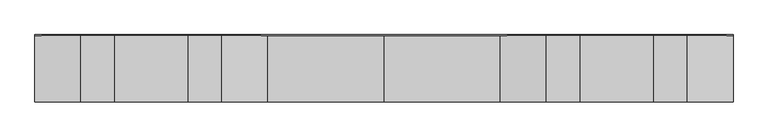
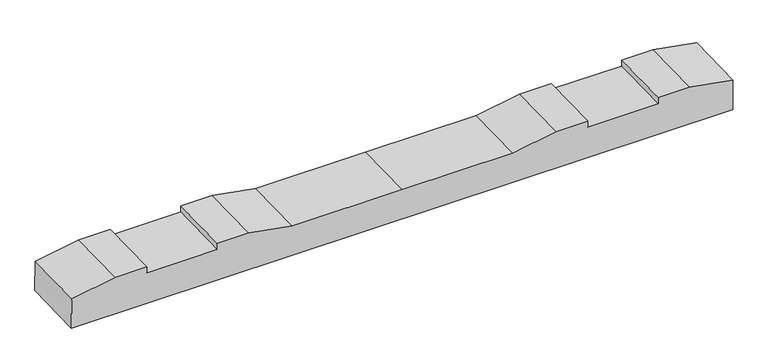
"""IFC4 building model written with IfcOpenShell, lengths in millimetres: proxy geometry, 轨枕-立面角度 : 轨枕-立面角度."""

import ifcopenshell
import ifcopenshell.guid

model = None  # the IFC model being written
_history = None  # IfcOwnerHistory: only IFC2X3 demands one
_inside = {}  # id of a spatial element -> (the spatial element, [elements in it])
_under = {}  # id of a project, library or spatial element -> (it, [spatial elements below it])
_declared = {}  # id of a project -> (the project, [libraries it declares])
_typed = {}  # id of a type object -> (the type object, [elements of that type])
_made_of = {}  # id of a material, layer set ... -> (it, [elements and type objects made of it])


def new_model(schema):
    """Start an empty IFC model of exactly this schema.

    Asked for "IFC4X3", IfcOpenShell would pick the latest addendum, in which some entities
    have other attributes; the version numbers below select the first issue.
    IFC2X3 requires an IfcOwnerHistory on every rooted entity: one is made here for all.
    """
    global model, _history
    if schema == "IFC4X3":
        model = ifcopenshell.file(schema_version=(4, 3, 0, 0))
    else:
        model = ifcopenshell.file(schema=schema)
    _inside.clear()
    _under.clear()
    _declared.clear()
    _typed.clear()
    _made_of.clear()
    _history = None
    if model.schema == "IFC2X3":
        org = make("IfcOrganization", Name="unknown")
        user = make(
            "IfcPersonAndOrganization",
            ThePerson=make("IfcPerson", FamilyName="unknown"),
            TheOrganization=org,
        )
        app = make(
            "IfcApplication",
            ApplicationDeveloper=org,
            Version="unknown",
            ApplicationFullName="unknown",
            ApplicationIdentifier="unknown",
        )
        _history = make(
            "IfcOwnerHistory",
            OwningUser=user,
            OwningApplication=app,
            ChangeAction="ADDED",
            CreationDate=0,
        )
    return model


def make(cls, **values):
    """One entity of the class cls with the attributes given. An attribute that is None is left unset."""
    return model.create_entity(
        cls, **{name: value for name, value in values.items() if value is not None}
    )


def rooted(cls, **values):
    """An entity with a GlobalId (a new one), such as an element, a storey or a relation."""
    return make(cls, GlobalId=ifcopenshell.guid.new(), OwnerHistory=_history, **values)


def si_unit(unit_type, name, prefix=None):
    """IfcSIUnit, for example si_unit("LENGTHUNIT", "METRE", prefix="MILLI")."""
    return make("IfcSIUnit", UnitType=unit_type, Prefix=prefix, Name=name)


def assignment(units):
    """IfcUnitAssignment: the units of a project."""
    return None if units is None else make("IfcUnitAssignment", Units=units)


def point(xyz):
    """IfcCartesianPoint."""
    return None if xyz is None else make("IfcCartesianPoint", Coordinates=xyz)


def direction(xyz):
    """IfcDirection."""
    return None if xyz is None else make("IfcDirection", DirectionRatios=xyz)


def frame(location, z_axis=None, x_axis=None):
    """IfcAxis2Placement3D, a coordinate frame: its origin and axes. An axis left out is left unset."""
    return make(
        "IfcAxis2Placement3D",
        Location=point(location),
        Axis=direction(z_axis),
        RefDirection=direction(x_axis),
    )


def origin():
    """The frame at (0, 0, 0) with its axes left unset."""
    return frame((0.0, 0.0, 0.0))


def place(relative_to, where):
    """IfcLocalPlacement: puts the frame where relative to a parent placement (None: the world)."""
    return make(
        "IfcLocalPlacement", PlacementRelTo=relative_to, RelativePlacement=where
    )


def context(
    kind, dimensions, precision=None, world=None, true_north=None, identifier=None
):
    """IfcGeometricRepresentationContext, for example the 3D "Model" context."""
    return make(
        "IfcGeometricRepresentationContext",
        ContextIdentifier=identifier,
        ContextType=kind,
        CoordinateSpaceDimension=dimensions,
        Precision=precision,
        WorldCoordinateSystem=world,
        TrueNorth=true_north,
    )


def project(units=None, contexts=None):
    """IfcProject with its units and contexts."""
    return rooted(
        "IfcProject",
        Name="project",
        RepresentationContexts=contexts,
        UnitsInContext=assignment(units),
    )


def spatial(cls, under=None, at=None, **own):
    """A site, building, storey or space (cls), placed at a placement, below another one or the project."""
    s = rooted(cls, ObjectPlacement=at, **own)
    if under is not None:
        _under.setdefault(under.id(), (under, []))[1].append(s)
    return s


def polyline(points):
    """IfcPolyline through the points."""
    return make("IfcPolyline", Points=[point(p) for p in points])


def outline(outer, holes=None, kind="AREA"):
    """IfcArbitraryClosedProfileDef: a profile drawn as a closed curve; with holes, ...WithVoids."""
    if holes is None:
        return make("IfcArbitraryClosedProfileDef", ProfileType=kind, OuterCurve=outer)
    return make(
        "IfcArbitraryProfileDefWithVoids",
        ProfileType=kind,
        OuterCurve=outer,
        InnerCurves=holes,
    )


def extrude(swept, where, along, depth):
    """IfcExtrudedAreaSolid: the profile swept, set in the frame where, extruded along a direction by depth."""
    return make(
        "IfcExtrudedAreaSolid",
        SweptArea=swept,
        Position=where,
        ExtrudedDirection=direction(along),
        Depth=depth,
    )


def shape(context_of_items, identifier, shape_type, items):
    """IfcShapeRepresentation: the items that make up one representation, for example the "Body"."""
    return make(
        "IfcShapeRepresentation",
        ContextOfItems=context_of_items,
        RepresentationIdentifier=identifier,
        RepresentationType=shape_type,
        Items=items,
    )


def source(mapping_origin, context_of_items, identifier, shape_type, items):
    """IfcRepresentationMap: a shape defined once, which mapped items show again and again."""
    return make(
        "IfcRepresentationMap",
        MappingOrigin=mapping_origin,
        MappedRepresentation=shape(context_of_items, identifier, shape_type, items),
    )


def transform(
    local_origin,
    x_axis=None,
    y_axis=None,
    z_axis=None,
    scale=None,
    scale2=None,
    scale3=None,
    uniform=True,
):
    """IfcCartesianTransformationOperator3D, or its non-uniform kind. x_axis, y_axis, z_axis: its Axis1, 2, 3."""
    if uniform:
        return make(
            "IfcCartesianTransformationOperator3D",
            Axis1=direction(x_axis),
            Axis2=direction(y_axis),
            LocalOrigin=point(local_origin),
            Scale=scale,
            Axis3=direction(z_axis),
        )
    return make(
        "IfcCartesianTransformationOperator3DnonUniform",
        Axis1=direction(x_axis),
        Axis2=direction(y_axis),
        LocalOrigin=point(local_origin),
        Scale=scale,
        Axis3=direction(z_axis),
        Scale2=scale2,
        Scale3=scale3,
    )


def mapped(mapping_source, mapping_target):
    """IfcMappedItem: shows the shape of a source again, moved by a transform."""
    return make(
        "IfcMappedItem", MappingSource=mapping_source, MappingTarget=mapping_target
    )


def made_of(thing, what):
    """Note that an element or type object is made of a material, layer set ...; save() writes the relation."""
    if what is not None:
        _made_of.setdefault(what.id(), (what, []))[1].append(thing)
    return thing


def element(
    cls,
    number,
    at=None,
    inside=None,
    cuts=None,
    type_object=None,
    material=None,
    context=None,
    identifier="Body",
    shape_type=None,
    held_by="IfcProductDefinitionShape",
    body=None,
    shapes=None,
    **own,
):
    """One element of the class cls, such as IfcWall. Its Tag is "e" and its number.

    at: its placement. inside: the storey or other place that contains it. cuts: it is an
    opening in that element (IfcRelVoidsElement). A single representation is given by context,
    identifier, shape_type and body (its items); several are given by shapes. held_by: the class
    of the entity that holds the representations. save() writes the other relations.
    """
    e = rooted(cls, Tag="e%d" % number, ObjectPlacement=at, **own)
    if body is not None:
        shapes = [shape(context, identifier, shape_type, body)]
    if shapes is not None:
        e.Representation = make(held_by, Representations=shapes)
    if inside is not None:
        _inside.setdefault(inside.id(), (inside, []))[1].append(e)
    if cuts is not None:
        rooted(
            "IfcRelVoidsElement", RelatingBuildingElement=cuts, RelatedOpeningElement=e
        )
    if type_object is not None:
        _typed.setdefault(type_object.id(), (type_object, []))[1].append(e)
    return made_of(e, material)


def aggregate(whole, parts):
    """IfcRelAggregates: a whole, such as a stair, and the parts it consists of."""
    return rooted("IfcRelAggregates", RelatingObject=whole, RelatedObjects=parts)


def save(model, path):
    """Write the relations noted so far, then the file.

    IfcRelAggregates (storeys below a building ...), IfcRelContainedInSpatialStructure (elements
    in a storey), IfcRelDefinesByType, IfcRelAssociatesMaterial and IfcRelDeclares: one each for
    every whole, place, type object, material and project.
    """
    for whole, parts in _under.values():
        aggregate(whole, parts)
    for where, things in _inside.values():
        rooted(
            "IfcRelContainedInSpatialStructure",
            RelatedElements=things,
            RelatingStructure=where,
        )
    for kind, things in _typed.values():
        rooted("IfcRelDefinesByType", RelatedObjects=things, RelatingType=kind)
    for what, things in _made_of.values():
        rooted("IfcRelAssociatesMaterial", RelatedObjects=things, RelatingMaterial=what)
    for by, libraries in _declared.values():
        rooted("IfcRelDeclares", RelatingContext=by, RelatedDefinitions=libraries)
    model.write(path)


def generic_models_04158120(model_context):
    return source(origin(), model_context, "Body", "SweptSolid", [
        extrude(outline(polyline([(0.0, 0.0), (2099.7669328, 0.0), (2099.7669328, -100.0206889), (1961.8834664, -124.5), (1861.8834664, -124.5), (1861.8834664, -104.5), (1637.8834664, -104.5), (1637.8834664, -124.5), (1537.8834664, -124.5), (1399.8834664, -99.9999999), (1049.8834664, -99.9999999), (699.8834664, -99.9999999), (561.8834664, -124.5), (461.8834664, -124.5), (461.8834664, -104.5), (237.8834664, -104.5), (237.8834664, -124.5), (137.8834664, -124.5), (0.0, -100.0206889), (0.0, 0.0)])), frame((-1049.8834664, -97.4105922, -106.9178494), z_axis=(0.0, 0.9997000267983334, 0.024491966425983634), x_axis=(1.0, 0.0, 0.0)), (0.0, 0.0, 1.0), 200.0),
    ])


if __name__ == "__main__":
    model = new_model("IFC4")
    model_context = context("Model", 3, world=origin())
    ifc_project = project(units=[si_unit("LENGTHUNIT", "METRE", prefix="MILLI")], contexts=[model_context])
    site = spatial("IfcSite", under=ifc_project)
    building = spatial("IfcBuilding", under=site)
    placement = place(None, origin())
    generic_models_shape = generic_models_04158120(model_context)
    element("IfcBuildingElementProxy", 1, Name="轨枕-立面角度 : 轨枕-立面角度", ObjectType="轨枕-立面角度 : 轨枕-立面角度", at=placement, inside=building, context=model_context, shape_type="MappedRepresentation", body=[
        mapped(generic_models_shape, transform((0.0, 0.0, 0.0), x_axis=(1.0, 0.0, 0.0), y_axis=(0.0, 1.0, 0.0), z_axis=(0.0, 0.0, 1.0))),
    ])
    save(model, "model.ifc")
